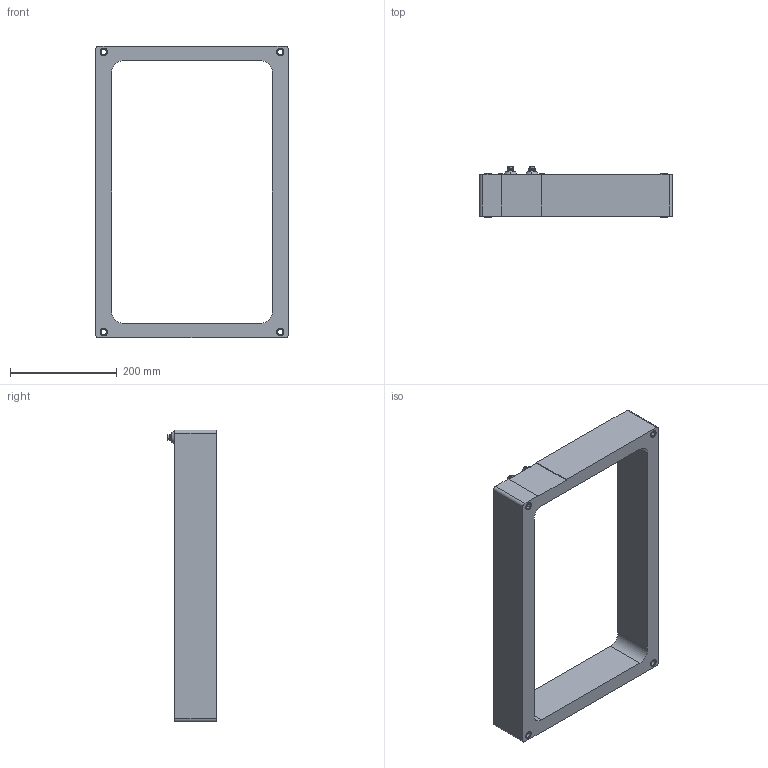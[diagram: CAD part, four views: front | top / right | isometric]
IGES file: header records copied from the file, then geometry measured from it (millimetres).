
Start section: IGES file generated by C3D Converter 1.9 translator by C3D Labs., translator version IGESOUT-5.1.
Global section: file name: C:\Ðàáîòà\Èçâåùåíèÿ 5\ÒÇËÊ-ÍÒÇ-0,66-300õ490\3D ìîäåëü ÒÇËÊ-ÍÒÇ-0,66-300õ490\ÒÇËÊ-ÍÒÇ-0,66-300õ490 (3D ìîäåëü).igs; preprocessor: 1.0; author: aaiak; organization: unknown; date: -17740722:053607; units: millimetre
Bounding box: 360 x 93.4 x 546 mm (x, y, z)
Volume: 3858830.3 mm3; surface area: 403488.3 mm2
Topology: 13 solids, 13 shells, 462 faces, 1132 edges, 742 vertices
Faces by surface type: revolution 298, bspline 164
